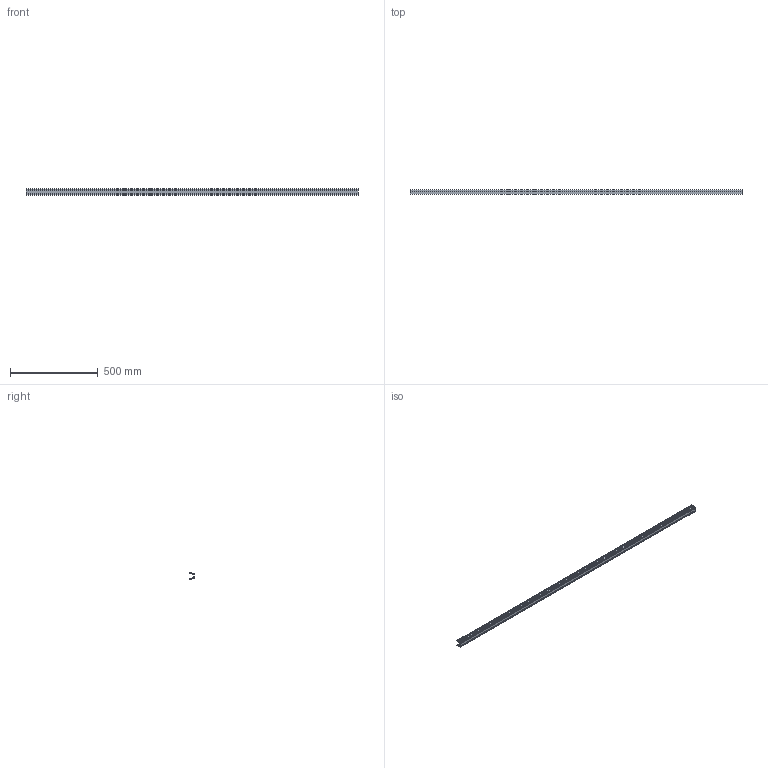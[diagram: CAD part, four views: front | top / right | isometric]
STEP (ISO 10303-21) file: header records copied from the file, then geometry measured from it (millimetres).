
FILE_DESCRIPTION( ( 'STEP AP203' ), '1' );
FILE_NAME( 'C:/Temp/Ganter_Step_05_03_2020/data/3_8/gn_646_3/Carrier profile GN 646.3-1890-A (15).stp', '2020-03-12T15:24:22', ( 'License CC BY-ND 4.0' ), ( 'CADENAS' ), ' ', 'PARTsolutions', ' ' );
FILE_SCHEMA( ( 'CONFIG_CONTROL_DESIGN' ) );
Length unit declared in the file: millimetre
Products named in the file (1): _Carrier profile GN 646.3-1890-A (15)
Bounding box: 1890 x 26.5 x 36 mm (x, y, z)
Volume: 317402.6 mm3; surface area: 397042.8 mm2
Topology: 1 solids, 1 shells, 112 faces, 330 edges, 220 vertices
Faces by surface type: plane 70, cylinder 42
Entity records: 3782 total; most frequent: CARTESIAN_POINT 663, ORIENTED_EDGE 660, DIRECTION 640, EDGE_CURVE 330, LINE 246, VECTOR 246, VERTEX_POINT 220, AXIS2_PLACEMENT_3D 197
